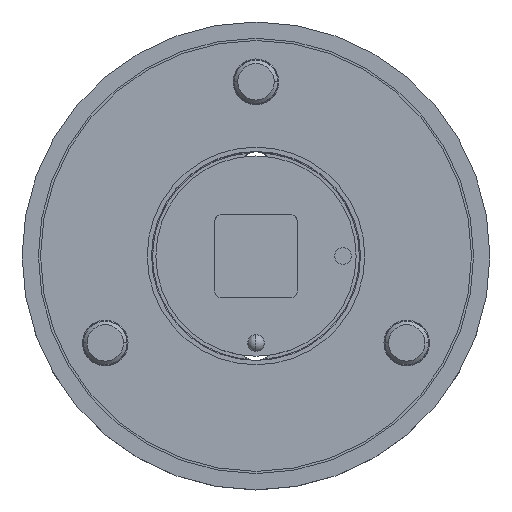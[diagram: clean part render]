
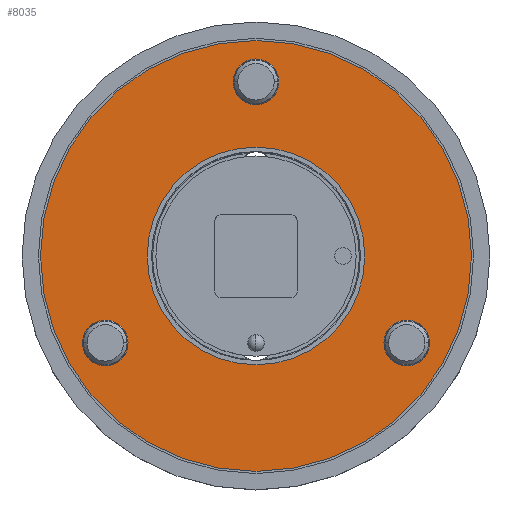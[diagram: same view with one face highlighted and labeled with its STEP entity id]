
A CAD part, top view. The second image highlights one B-rep face of the part: STEP entity #8035.
In plain terms, the highlighted planar face has unit normal (0, 0, 1).
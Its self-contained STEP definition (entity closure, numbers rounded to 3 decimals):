
#135 = ORIENTED_EDGE ( 'NONE', *, *, #8898, .F. ) ;
#137 = ORIENTED_EDGE ( 'NONE', *, *, #6353, .T. ) ;
#215 = AXIS2_PLACEMENT_3D ( 'NONE', #9658, #6496, #5627 ) ;
#251 = ORIENTED_EDGE ( 'NONE', *, *, #3566, .F. ) ;
#388 = CARTESIAN_POINT ( 'NONE',  ( -2.423, 15.609, 134.15 ) ) ;
#391 = AXIS2_PLACEMENT_3D ( 'NONE', #8503, #8452, #801 ) ;
#499 = EDGE_CURVE ( 'NONE', #10056, #9808, #9012, .T. ) ;
#801 = DIRECTION ( 'NONE',  ( 1., 0., 0. ) ) ;
#875 = ORIENTED_EDGE ( 'NONE', *, *, #1721, .F. ) ;
#979 = CARTESIAN_POINT ( 'NONE',  ( -37.064, -4.391, 134.15 ) ) ;
#1127 = EDGE_CURVE ( 'NONE', #9424, #6622, #7855, .T. ) ;
#1148 = CARTESIAN_POINT ( 'NONE',  ( -27.423, 15.609, 134.15 ) ) ;
#1191 = DIRECTION ( 'NONE',  ( 1., 0., 0. ) ) ;
#1242 = DIRECTION ( 'NONE',  ( 0., 0., 1. ) ) ;
#1253 = DIRECTION ( 'NONE',  ( 1., 0., 0. ) ) ;
#1419 = CARTESIAN_POINT ( 'NONE',  ( -51.923, 15.609, 134.15 ) ) ;
#1437 = EDGE_LOOP ( 'NONE', ( #9268, #7232 ) ) ;
#1502 = AXIS2_PLACEMENT_3D ( 'NONE', #5125, #1242, #7453 ) ;
#1539 = DIRECTION ( 'NONE',  ( 1., 0., 0. ) ) ;
#1570 = DIRECTION ( 'NONE',  ( 0., 0., 1. ) ) ;
#1615 = AXIS2_PLACEMENT_3D ( 'NONE', #4070, #2645, #6572 ) ;
#1638 = EDGE_LOOP ( 'NONE', ( #137, #7627 ) ) ;
#1721 = EDGE_CURVE ( 'NONE', #7946, #3263, #7207, .T. ) ;
#2091 = CIRCLE ( 'NONE', #1615, 25. ) ;
#2604 = CARTESIAN_POINT ( 'NONE',  ( 26.968, -4.391, 134.15 ) ) ;
#2645 = DIRECTION ( 'NONE',  ( 0., 0., 1. ) ) ;
#2859 = VERTEX_POINT ( 'NONE', #1148 ) ;
#2887 = FACE_BOUND ( 'NONE', #5336, .T. ) ;
#2893 = VERTEX_POINT ( 'NONE', #5883 ) ;
#3036 = EDGE_LOOP ( 'NONE', ( #135, #7286 ) ) ;
#3263 = VERTEX_POINT ( 'NONE', #6834 ) ;
#3334 = DIRECTION ( 'NONE',  ( 0., 0., 1. ) ) ;
#3358 = DIRECTION ( 'NONE',  ( 0., 0., 1. ) ) ;
#3462 = AXIS2_PLACEMENT_3D ( 'NONE', #5260, #8371, #1539 ) ;
#3502 = DIRECTION ( 'NONE',  ( 0., 0., 1. ) ) ;
#3566 = EDGE_CURVE ( 'NONE', #2893, #2859, #2091, .T. ) ;
#3595 = CARTESIAN_POINT ( 'NONE',  ( -31.814, -4.391, 134.15 ) ) ;
#3655 = AXIS2_PLACEMENT_3D ( 'NONE', #6969, #1570, #10071 ) ;
#3788 = CARTESIAN_POINT ( 'NONE',  ( -7.673, 55.609, 134.15 ) ) ;
#3966 = EDGE_CURVE ( 'NONE', #9808, #10056, #5674, .T. ) ;
#3971 = AXIS2_PLACEMENT_3D ( 'NONE', #979, #3334, #8121 ) ;
#4070 = CARTESIAN_POINT ( 'NONE',  ( -2.423, 15.609, 134.15 ) ) ;
#4268 = FACE_BOUND ( 'NONE', #1437, .T. ) ;
#4370 = DIRECTION ( 'NONE',  ( 1., 0., 0. ) ) ;
#4454 = AXIS2_PLACEMENT_3D ( 'NONE', #388, #3502, #1253 ) ;
#4798 = CIRCLE ( 'NONE', #391, 49.5 ) ;
#4888 = CARTESIAN_POINT ( 'NONE',  ( 47.077, 15.609, 134.15 ) ) ;
#5125 = CARTESIAN_POINT ( 'NONE',  ( -2.423, 15.609, 134.15 ) ) ;
#5260 = CARTESIAN_POINT ( 'NONE',  ( -2.423, 55.609, 134.15 ) ) ;
#5318 = EDGE_LOOP ( 'NONE', ( #875, #7261 ) ) ;
#5336 = EDGE_LOOP ( 'NONE', ( #9143, #251 ) ) ;
#5627 = DIRECTION ( 'NONE',  ( 1., 0., 0. ) ) ;
#5674 = CIRCLE ( 'NONE', #7466, 5.25 ) ;
#5825 = CARTESIAN_POINT ( 'NONE',  ( -2.423, 15.609, 134.15 ) ) ;
#5883 = CARTESIAN_POINT ( 'NONE',  ( 22.577, 15.609, 134.15 ) ) ;
#5986 = PLANE ( 'NONE',  #4454 ) ;
#6240 = AXIS2_PLACEMENT_3D ( 'NONE', #8232, #6758, #8279 ) ;
#6333 = CARTESIAN_POINT ( 'NONE',  ( 2.827, 55.609, 134.15 ) ) ;
#6353 = EDGE_CURVE ( 'NONE', #7756, #8572, #7355, .T. ) ;
#6496 = DIRECTION ( 'NONE',  ( 0., 0., 1. ) ) ;
#6504 = EDGE_CURVE ( 'NONE', #2859, #2893, #7681, .T. ) ;
#6572 = DIRECTION ( 'NONE',  ( 1., 0., 0. ) ) ;
#6622 = VERTEX_POINT ( 'NONE', #6333 ) ;
#6758 = DIRECTION ( 'NONE',  ( 0., 0., 1. ) ) ;
#6834 = CARTESIAN_POINT ( 'NONE',  ( -42.314, -4.391, 134.15 ) ) ;
#6917 = CIRCLE ( 'NONE', #3655, 5.25 ) ;
#6969 = CARTESIAN_POINT ( 'NONE',  ( -2.423, 55.609, 134.15 ) ) ;
#7207 = CIRCLE ( 'NONE', #6240, 5.25 ) ;
#7232 = ORIENTED_EDGE ( 'NONE', *, *, #499, .F. ) ;
#7261 = ORIENTED_EDGE ( 'NONE', *, *, #9177, .F. ) ;
#7286 = ORIENTED_EDGE ( 'NONE', *, *, #1127, .F. ) ;
#7355 = CIRCLE ( 'NONE', #8656, 49.5 ) ;
#7371 = FACE_OUTER_BOUND ( 'NONE', #1638, .T. ) ;
#7453 = DIRECTION ( 'NONE',  ( 1., 0., 0. ) ) ;
#7466 = AXIS2_PLACEMENT_3D ( 'NONE', #8242, #3358, #4370 ) ;
#7627 = ORIENTED_EDGE ( 'NONE', *, *, #7637, .T. ) ;
#7637 = EDGE_CURVE ( 'NONE', #8572, #7756, #4798, .T. ) ;
#7681 = CIRCLE ( 'NONE', #1502, 25. ) ;
#7756 = VERTEX_POINT ( 'NONE', #1419 ) ;
#7855 = CIRCLE ( 'NONE', #3462, 5.25 ) ;
#7946 = VERTEX_POINT ( 'NONE', #3595 ) ;
#8035 = ADVANCED_FACE ( 'NONE', ( #8138, #4268, #9871, #7371, #2887 ), #5986, .T. ) ;
#8121 = DIRECTION ( 'NONE',  ( 1., 0., 0. ) ) ;
#8138 = FACE_BOUND ( 'NONE', #3036, .T. ) ;
#8201 = CIRCLE ( 'NONE', #3971, 5.25 ) ;
#8232 = CARTESIAN_POINT ( 'NONE',  ( -37.064, -4.391, 134.15 ) ) ;
#8242 = CARTESIAN_POINT ( 'NONE',  ( 32.218, -4.391, 134.15 ) ) ;
#8279 = DIRECTION ( 'NONE',  ( 1., 0., 0. ) ) ;
#8371 = DIRECTION ( 'NONE',  ( 0., 0., 1. ) ) ;
#8452 = DIRECTION ( 'NONE',  ( 0., 0., 1. ) ) ;
#8503 = CARTESIAN_POINT ( 'NONE',  ( -2.423, 15.609, 134.15 ) ) ;
#8572 = VERTEX_POINT ( 'NONE', #4888 ) ;
#8656 = AXIS2_PLACEMENT_3D ( 'NONE', #5825, #9657, #1191 ) ;
#8898 = EDGE_CURVE ( 'NONE', #6622, #9424, #6917, .T. ) ;
#9012 = CIRCLE ( 'NONE', #215, 5.25 ) ;
#9143 = ORIENTED_EDGE ( 'NONE', *, *, #6504, .F. ) ;
#9177 = EDGE_CURVE ( 'NONE', #3263, #7946, #8201, .T. ) ;
#9268 = ORIENTED_EDGE ( 'NONE', *, *, #3966, .F. ) ;
#9271 = CARTESIAN_POINT ( 'NONE',  ( 37.468, -4.391, 134.15 ) ) ;
#9424 = VERTEX_POINT ( 'NONE', #3788 ) ;
#9657 = DIRECTION ( 'NONE',  ( 0., 0., 1. ) ) ;
#9658 = CARTESIAN_POINT ( 'NONE',  ( 32.218, -4.391, 134.15 ) ) ;
#9808 = VERTEX_POINT ( 'NONE', #9271 ) ;
#9871 = FACE_BOUND ( 'NONE', #5318, .T. ) ;
#10056 = VERTEX_POINT ( 'NONE', #2604 ) ;
#10071 = DIRECTION ( 'NONE',  ( 1., 0., 0. ) ) ;
